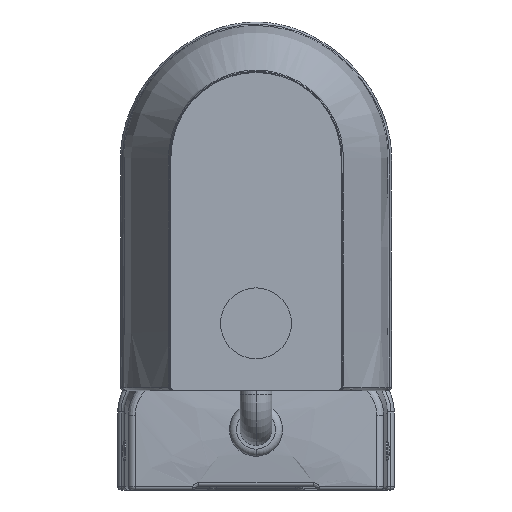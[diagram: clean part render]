
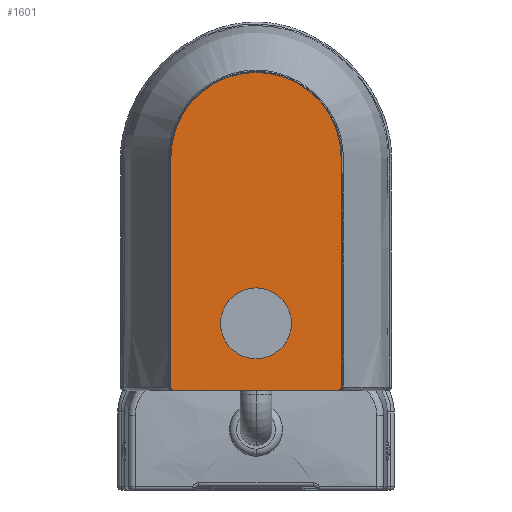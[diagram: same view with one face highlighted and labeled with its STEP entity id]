
A CAD part, front view. The second image highlights one B-rep face of the part: STEP entity #1601.
In plain terms, the highlighted planar face has unit normal (0, -1, 0).
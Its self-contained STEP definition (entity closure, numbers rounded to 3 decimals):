
#1587 = VERTEX_POINT ( 'NONE', #28813 ) ;
#1601 = ADVANCED_FACE ( 'NONE', ( #19858, #14384 ), #3421, .T. ) ;
#2423 = CIRCLE ( 'NONE', #22855, 50. ) ;
#2611 = VERTEX_POINT ( 'NONE', #19682 ) ;
#2923 = VERTEX_POINT ( 'NONE', #24234 ) ;
#3227 = CARTESIAN_POINT ( 'NONE',  ( 120., -420., 0. ) ) ;
#3367 = CIRCLE ( 'NONE', #3950, 120. ) ;
#3421 = PLANE ( 'NONE',  #14907 ) ;
#3950 = AXIS2_PLACEMENT_3D ( 'NONE', #7613, #12064, #16028 ) ;
#4414 = EDGE_CURVE ( 'NONE', #2611, #32465, #11740, .T. ) ;
#4436 = DIRECTION ( 'NONE',  ( 0., 0., -1. ) ) ;
#5118 = ORIENTED_EDGE ( 'NONE', *, *, #15104, .F. ) ;
#5480 = ORIENTED_EDGE ( 'NONE', *, *, #19526, .T. ) ;
#6276 = CARTESIAN_POINT ( 'NONE',  ( 115., -420., 161.172 ) ) ;
#6567 = CARTESIAN_POINT ( 'NONE',  ( -120., -420., 490. ) ) ;
#6839 = DIRECTION ( 'NONE',  ( 0., -1., 0. ) ) ;
#7613 = CARTESIAN_POINT ( 'NONE',  ( 0., -420., 490. ) ) ;
#8142 = CARTESIAN_POINT ( 'NONE',  ( 120., -420., 490. ) ) ;
#8179 = EDGE_CURVE ( 'NONE', #2923, #31310, #3367, .T. ) ;
#8831 = CIRCLE ( 'NONE', #35646, 50. ) ;
#9274 = DIRECTION ( 'NONE',  ( 0., 0., -1. ) ) ;
#9732 = CARTESIAN_POINT ( 'NONE',  ( 0., -420., 490. ) ) ;
#11740 = CIRCLE ( 'NONE', #13482, 5. ) ;
#11814 = DIRECTION ( 'NONE',  ( 0., 0., -1. ) ) ;
#12064 = DIRECTION ( 'NONE',  ( 0., 1., 0. ) ) ;
#12093 = DIRECTION ( 'NONE',  ( 0., -1., 0. ) ) ;
#12466 = DIRECTION ( 'NONE',  ( 0., 0., -1. ) ) ;
#12905 = LINE ( 'NONE', #24055, #34878 ) ;
#13221 = CARTESIAN_POINT ( 'NONE',  ( 115., -420., 166.172 ) ) ;
#13290 = DIRECTION ( 'NONE',  ( -1., 0., 0. ) ) ;
#13482 = AXIS2_PLACEMENT_3D ( 'NONE', #13221, #35497, #24377 ) ;
#14251 = ORIENTED_EDGE ( 'NONE', *, *, #8179, .F. ) ;
#14384 = FACE_OUTER_BOUND ( 'NONE', #32368, .T. ) ;
#14559 = CARTESIAN_POINT ( 'NONE',  ( 0., -420., 490. ) ) ;
#14846 = ORIENTED_EDGE ( 'NONE', *, *, #29803, .F. ) ;
#14907 = AXIS2_PLACEMENT_3D ( 'NONE', #14559, #31546, #11814 ) ;
#15068 = VERTEX_POINT ( 'NONE', #6567 ) ;
#15104 = EDGE_CURVE ( 'NONE', #32465, #33599, #29931, .T. ) ;
#15195 = ORIENTED_EDGE ( 'NONE', *, *, #4414, .F. ) ;
#16028 = DIRECTION ( 'NONE',  ( 0., 0., -1. ) ) ;
#17405 = ORIENTED_EDGE ( 'NONE', *, *, #28063, .T. ) ;
#17995 = DIRECTION ( 'NONE',  ( 0., 0., -1. ) ) ;
#18925 = VECTOR ( 'NONE', #13290, 1000. ) ;
#19526 = EDGE_CURVE ( 'NONE', #1587, #33599, #29886, .T. ) ;
#19682 = CARTESIAN_POINT ( 'NONE',  ( 120., -420., 166.172 ) ) ;
#19858 = FACE_BOUND ( 'NONE', #34146, .T. ) ;
#20112 = CARTESIAN_POINT ( 'NONE',  ( -115., -420., 161.172 ) ) ;
#21378 = EDGE_CURVE ( 'NONE', #31194, #31213, #8831, .T. ) ;
#21461 = DIRECTION ( 'NONE',  ( 0., 0., -1. ) ) ;
#22027 = CARTESIAN_POINT ( 'NONE',  ( 0., -420., 206.172 ) ) ;
#22283 = AXIS2_PLACEMENT_3D ( 'NONE', #26026, #6839, #17995 ) ;
#22855 = AXIS2_PLACEMENT_3D ( 'NONE', #23789, #12093, #4436 ) ;
#23129 = LINE ( 'NONE', #3227, #35467 ) ;
#23565 = ORIENTED_EDGE ( 'NONE', *, *, #33164, .F. ) ;
#23729 = ORIENTED_EDGE ( 'NONE', *, *, #28937, .T. ) ;
#23789 = CARTESIAN_POINT ( 'NONE',  ( 0., -420., 256.172 ) ) ;
#24055 = CARTESIAN_POINT ( 'NONE',  ( -120., -420., 0. ) ) ;
#24234 = CARTESIAN_POINT ( 'NONE',  ( 0., -420., 610. ) ) ;
#24377 = DIRECTION ( 'NONE',  ( 0., 0., -1. ) ) ;
#24398 = DIRECTION ( 'NONE',  ( 0., -1., 0. ) ) ;
#24755 = CARTESIAN_POINT ( 'NONE',  ( 0., -420., 256.172 ) ) ;
#24940 = AXIS2_PLACEMENT_3D ( 'NONE', #9732, #29467, #12466 ) ;
#25510 = DIRECTION ( 'NONE',  ( 0., 0., -1. ) ) ;
#26026 = CARTESIAN_POINT ( 'NONE',  ( -115., -420., 166.172 ) ) ;
#27746 = ORIENTED_EDGE ( 'NONE', *, *, #21378, .F. ) ;
#27872 = CARTESIAN_POINT ( 'NONE',  ( 0., -420., 306.172 ) ) ;
#28063 = EDGE_CURVE ( 'NONE', #15068, #1587, #12905, .T. ) ;
#28813 = CARTESIAN_POINT ( 'NONE',  ( -120., -420., 166.172 ) ) ;
#28937 = EDGE_CURVE ( 'NONE', #2923, #15068, #35994, .T. ) ;
#29467 = DIRECTION ( 'NONE',  ( 0., -1., 0. ) ) ;
#29803 = EDGE_CURVE ( 'NONE', #31310, #2611, #23129, .T. ) ;
#29886 = CIRCLE ( 'NONE', #22283, 5. ) ;
#29931 = LINE ( 'NONE', #31947, #18925 ) ;
#31194 = VERTEX_POINT ( 'NONE', #22027 ) ;
#31213 = VERTEX_POINT ( 'NONE', #27872 ) ;
#31310 = VERTEX_POINT ( 'NONE', #8142 ) ;
#31546 = DIRECTION ( 'NONE',  ( 0., -1., 0. ) ) ;
#31947 = CARTESIAN_POINT ( 'NONE',  ( 0., -420., 161.172 ) ) ;
#32368 = EDGE_LOOP ( 'NONE', ( #17405, #5480, #5118, #15195, #14846, #14251, #23729 ) ) ;
#32465 = VERTEX_POINT ( 'NONE', #6276 ) ;
#33164 = EDGE_CURVE ( 'NONE', #31213, #31194, #2423, .T. ) ;
#33599 = VERTEX_POINT ( 'NONE', #20112 ) ;
#34146 = EDGE_LOOP ( 'NONE', ( #27746, #23565 ) ) ;
#34878 = VECTOR ( 'NONE', #9274, 1000. ) ;
#35467 = VECTOR ( 'NONE', #25510, 1000. ) ;
#35497 = DIRECTION ( 'NONE',  ( 0., 1., 0. ) ) ;
#35646 = AXIS2_PLACEMENT_3D ( 'NONE', #24755, #24398, #21461 ) ;
#35994 = CIRCLE ( 'NONE', #24940, 120. ) ;
